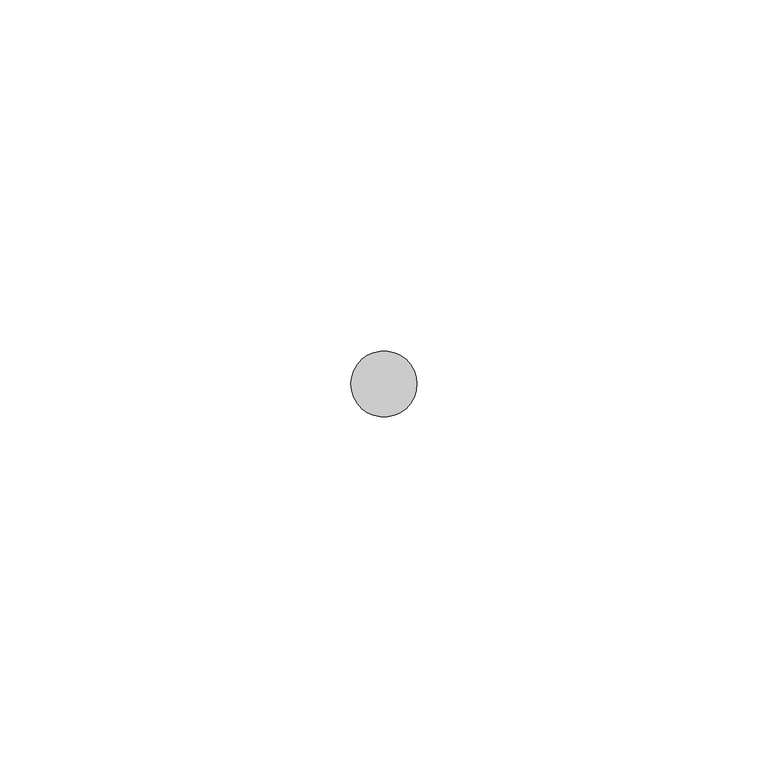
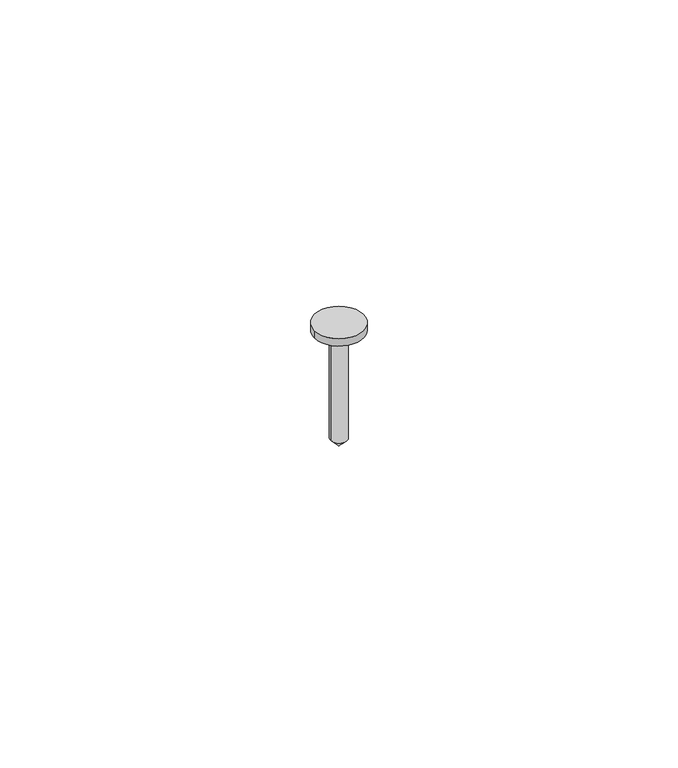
"""IFC4 building model written with IfcOpenShell, lengths in millimetres: proxy geometry, Knauf - AQUAPANEL - Maxi screws : Maxi Screw SB 25."""

from ifc_helpers import new_model, si_unit, point, frame, origin, origin_with_axes, origin_2d, place, context, project, spatial, polyline, circle_curve, trimmed, segment, composite_curve, outline, extrude, source, transform, mapped, element, save
from ifc_brep_helpers import plane_surface, revolved_surface, advanced_brep


def generic_models_2d61fbd6(model_context):
    return source(origin(), model_context, "Body", "SolidModel", [
        extrude(outline(composite_curve([segment(trimmed(circle_curve(origin_2d(), 1.6), [point((1.6, 0.0))], [point((-1.6, 0.0))], False, "CARTESIAN"), True, "CONTINUOUS"), segment(trimmed(circle_curve(origin_2d(), 1.6), [point((-1.6, 0.0))], [point((1.6, 0.0))], False, "CARTESIAN"), True, "CONTINUOUS")], self_intersect=False)), frame((0.0, 0.0, -21.9), z_axis=(0.0, 0.0, 1.0), x_axis=(1.0, 0.0, 0.0)), (0.0, 0.0, 1.0), 21.9),
        advanced_brep(
        [(0.0, 0.0, -21.9), (-1.6, 0.0, -21.9), (1.6, 0.0, -21.9), (0.0, 0.0, -23.5)],
        [
            (0, 1),
            (1, 2, circle_curve(frame((0.0, 0.0, -21.9), z_axis=(0.0, 0.0, 1.0), x_axis=(1.0, 0.0, 0.0)), 1.6)),
            (2, 0),
            (2, 1, circle_curve(frame((0.0, 0.0, -21.9), z_axis=(0.0, 0.0, 1.0), x_axis=(1.0, 0.0, 0.0)), 1.6)),
            (1, 3),
            (3, 2),
        ],
        [
            plane_surface(frame((0.0, 0.0, -21.9), z_axis=(0.0, 0.0, 1.0), x_axis=(1.0, 0.0, 0.0))),
            revolved_surface(polyline([(0.0, 0.0, -23.5), (1.6, 0.0, -21.9)]), (0.0, 0.0, -12.7280476), (0.0, 0.0, 1.0)),
        ],
        [
            (0, [[1, 2, 3]]),
            (0, [[-3, 4, -1]]),
            (1, [[5, 6, -2]]),
            (1, [[-6, -5, -4]]),
        ],
    ),
        extrude(outline(composite_curve([segment(trimmed(circle_curve(origin_2d(), 4.7), [point((-4.7, 0.0))], [point((4.7, 0.0))], False, "CARTESIAN"), True, "CONTINUOUS"), segment(trimmed(circle_curve(origin_2d(), 4.7), [point((4.7, 0.0))], [point((-4.7, 0.0))], False, "CARTESIAN"), True, "CONTINUOUS")], self_intersect=False)), origin_with_axes(), (0.0, 0.0, 1.0), 1.5),
    ])


if __name__ == "__main__":
    model = new_model("IFC4")
    model_context = context("Model", 3, world=origin())
    ifc_project = project(units=[si_unit("LENGTHUNIT", "METRE", prefix="MILLI")], contexts=[model_context])
    site = spatial("IfcSite", under=ifc_project)
    building = spatial("IfcBuilding", under=site)
    placement = place(None, origin())
    generic_models_shape = generic_models_2d61fbd6(model_context)
    element("IfcBuildingElementProxy", 1, Name="Knauf - AQUAPANEL - Maxi screws : Maxi Screw SB 25", ObjectType="Knauf - AQUAPANEL - Maxi screws : Maxi Screw SB 25", at=placement, inside=building, context=model_context, shape_type="MappedRepresentation", body=[
        mapped(generic_models_shape, transform((0.0, 0.0, 0.0), x_axis=(1.0, 0.0, 0.0), y_axis=(0.0, 1.0, 0.0), z_axis=(0.0, 0.0, 1.0))),
    ])
    save(model, "model.ifc")
